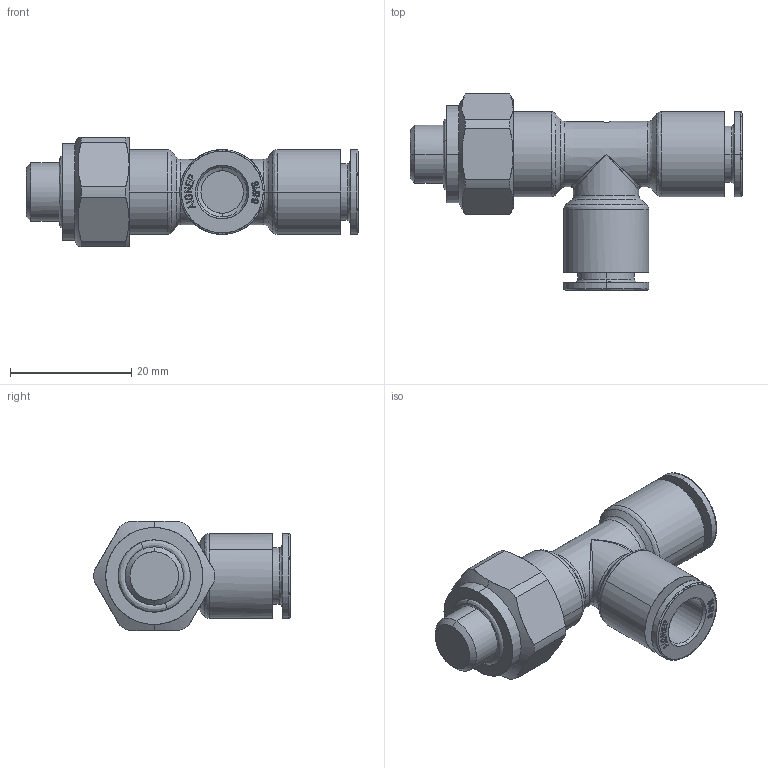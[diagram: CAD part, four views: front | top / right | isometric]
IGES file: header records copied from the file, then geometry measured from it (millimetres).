
Start section: SolidWorks IGES file using analytic representation for surfaces
Global section: file name: K:\Disegni Esecutivi\SERIE 54000\54000-Assiemi\54227\IGES e STEP\5422700017A.IGS; native system: SolidWorks 2020; preprocessor: SolidWorks 2020; author: LUCA COMETTI; date: 250701.152851; units: millimetre
Bounding box: 54.75 x 32.35 x 18 mm (x, y, z)
Surface area: 4958.8 mm2 (no closed solid volume)
Topology: 0 solids, 0 shells, 393 faces, 3793 edges, 3789 vertices
Faces by surface type: bspline 331, revolution 62
